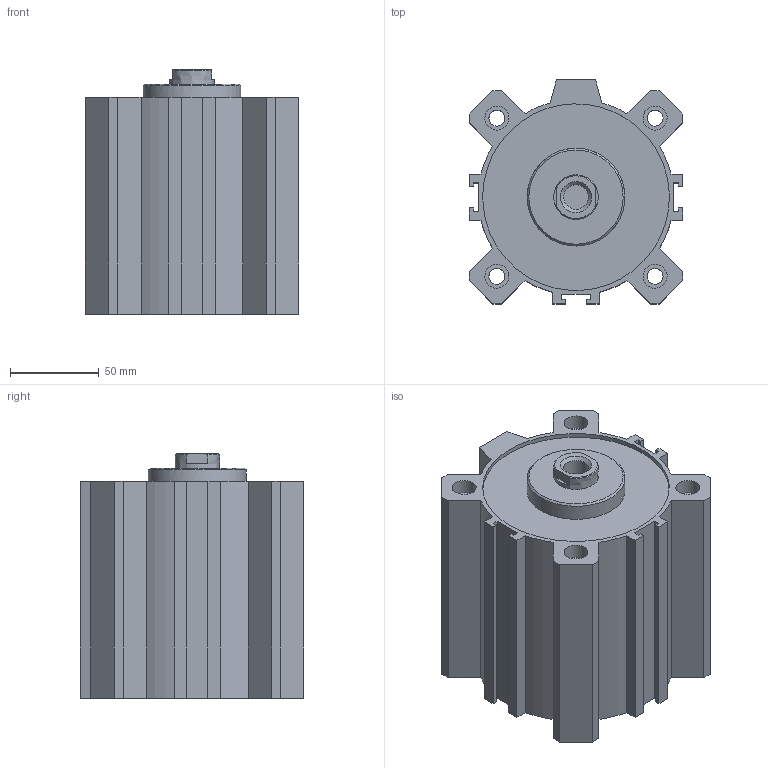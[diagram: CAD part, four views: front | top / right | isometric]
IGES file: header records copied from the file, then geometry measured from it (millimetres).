
Global section: file name: 1511_100_0070; native system: Autodesk Inventor 2014; preprocessor: unknown; author: A. Manieri; date: 20160824.162658; units: millimetre
Bounding box: 120 x 126 x 137.5 mm (x, y, z)
Volume: 907896.6 mm3; surface area: 192345.4 mm2
Topology: 2 solids, 2 shells, 119 faces, 307 edges, 210 vertices
Faces by surface type: bspline 119
